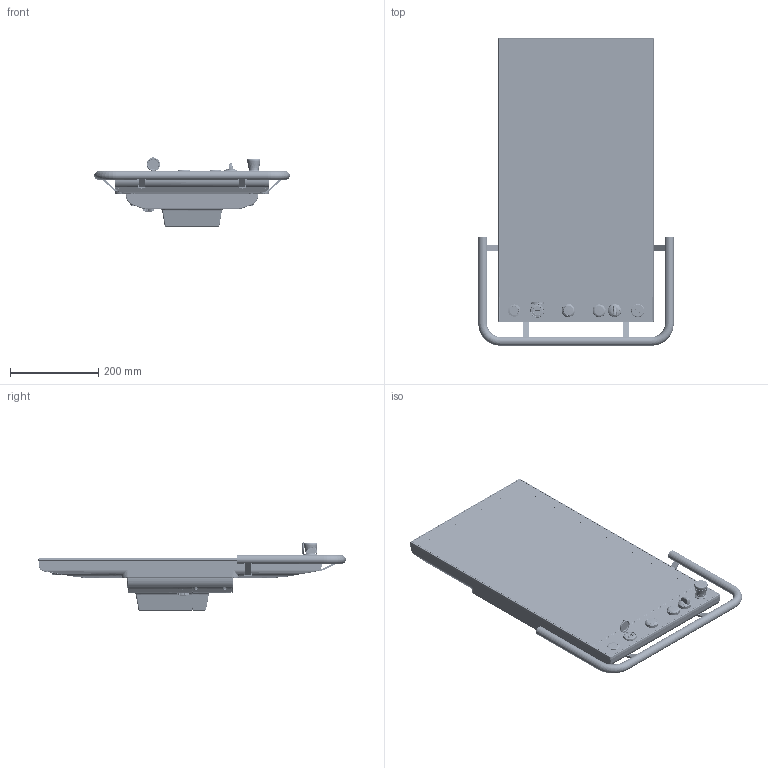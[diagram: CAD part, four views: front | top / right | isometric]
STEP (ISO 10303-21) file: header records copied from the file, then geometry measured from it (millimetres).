
FILE_DESCRIPTION (( 'STEP AP214' ), '1' );
FILE_NAME ('DIMA VK3500P-BA 24.0 VESA CON MANIGLIA INFERIORE.STEP', '2021-09-14T09:51:52', ( '' ), ( '' ), 'SwSTEP 2.0', 'SolidWorks 2021', '' );
FILE_SCHEMA (( 'AUTOMOTIVE_DESIGN' ));
Length unit declared in the file: millimetre
Products named in the file (37): kit_posteriore_vesa_usb3; 56600724; 58755018; 69111021; 66811015; 58755015; 56202013; 55455178; 26020043; 57836084; 26020037; 69111035; 60290002; 55600023; 48000080; 56202014; 56202011; 55688019; 56236082; 56600718; 69111036; 57342391; 56600719; 26020033; 26140000; 57836083_Default<A macchina>; 26020035; 93657770; DIMA VK3500P-BA 24.0 VESA CON MANIGLIA INFERIORE; 50342043; 56236078; 56202012; 21507074; 69111017; 69111016; 56636972_Default<A macchina>; 56636969
Assembly tree (57 placements, depth 4):
  DIMA VK3500P-BA 24.0 VESA CON MANIGLIA INFERIORE
    56600719
      56600718
        56636969
        50342043
        55455178
      55600023
        55688019
        48000080
        21507074
    56600724
      56636972_Default<A macchina>
      57342391
    57836084
      57836083_Default<A macchina>
    kit_posteriore_vesa_usb3
    60290002  x6
    69111036  x2
    58755018  x2
    56202014  x2
      56202013
    56236082
      56236078
    66811015  x8
    69111021  x2
    56202012  x2
      56202011
    69111035  x2
    69111017  x2
    69111016  x2
    58755015  x2
    26020037
    26020033
    26020035
    26140000
    26020043
    93657770
Bounding box: 442.9 x 696.73 x 159.97 mm (x, y, z)
Volume: 2090262.1 mm3; surface area: 1870925.5 mm2
Topology: 94 solids, 219 shells, 10436 faces, 27648 edges, 17632 vertices
Faces by surface type: plane 4651, cylinder 2952, cone 1380, bspline 983, torus 349, sphere 121
Entity records: 471778 total; most frequent: CARTESIAN_POINT 178845, ORIENTED_EDGE 50751, DIRECTION 45068, EDGE_CURVE 25996, VERTEX_POINT 16667, AXIS2_PLACEMENT_3D 16171, LINE 12726, VECTOR 12726
